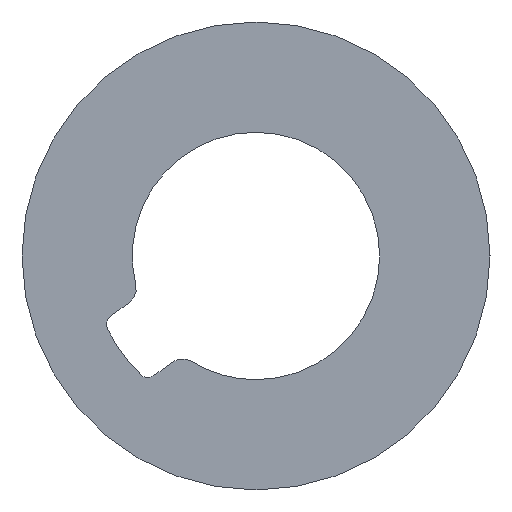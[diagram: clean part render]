
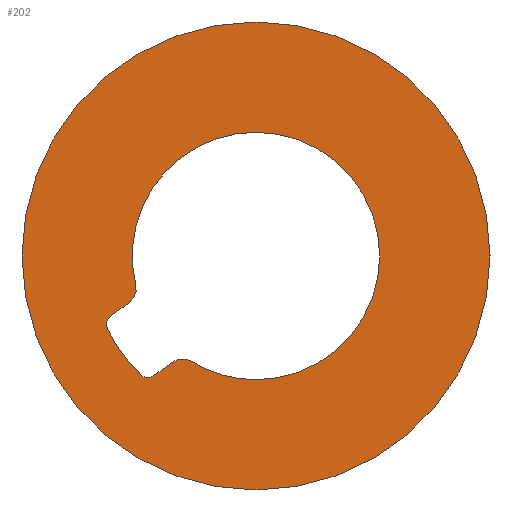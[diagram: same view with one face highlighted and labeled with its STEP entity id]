
A CAD part, left-side view. The second image highlights one B-rep face of the part: STEP entity #202.
In plain terms, the highlighted planar face has unit normal (-1, 0, 0).
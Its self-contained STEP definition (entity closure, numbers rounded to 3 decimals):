
#5 = ORIENTED_EDGE ( 'NONE', *, *, #264, .T. ) ;
#6 = ORIENTED_EDGE ( 'NONE', *, *, #265, .T. ) ;
#7 = ORIENTED_EDGE ( 'NONE', *, *, #267, .T. ) ;
#27 = VECTOR ( 'NONE', #352, 1000. ) ;
#28 = CIRCLE ( 'NONE', #222, 7. ) ;
#30 = LINE ( 'NONE', #354, #27 ) ;
#42 = CIRCLE ( 'NONE', #229, 3.7 ) ;
#48 = CIRCLE ( 'NONE', #231, 3.7 ) ;
#54 = CIRCLE ( 'NONE', #233, 3.7 ) ;
#63 = CIRCLE ( 'NONE', #235, 7. ) ;
#88 = CIRCLE ( 'NONE', #238, 0.3 ) ;
#92 = CIRCLE ( 'NONE', #239, 0.3 ) ;
#94 = CIRCLE ( 'NONE', #240, 4.95 ) ;
#96 = CIRCLE ( 'NONE', #241, 0.3 ) ;
#98 = VECTOR ( 'NONE', #397, 1000. ) ;
#99 = CIRCLE ( 'NONE', #242, 0.5 ) ;
#100 = LINE ( 'NONE', #398, #98 ) ;
#101 = CIRCLE ( 'NONE', #243, 0.5 ) ;
#105 = ORIENTED_EDGE ( 'NONE', *, *, #260, .T. ) ;
#106 = ORIENTED_EDGE ( 'NONE', *, *, #461, .T. ) ;
#107 = ORIENTED_EDGE ( 'NONE', *, *, #277, .F. ) ;
#108 = ORIENTED_EDGE ( 'NONE', *, *, #288, .T. ) ;
#109 = ORIENTED_EDGE ( 'NONE', *, *, #281, .T. ) ;
#110 = ORIENTED_EDGE ( 'NONE', *, *, #284, .T. ) ;
#111 = ORIENTED_EDGE ( 'NONE', *, *, #261, .T. ) ;
#112 = ORIENTED_EDGE ( 'NONE', *, *, #263, .T. ) ;
#113 = ORIENTED_EDGE ( 'NONE', *, *, #262, .T. ) ;
#132 = FACE_BOUND ( 'NONE', #160, .T. ) ;
#133 = FACE_OUTER_BOUND ( 'NONE', #158, .T. ) ;
#158 = EDGE_LOOP ( 'NONE', ( #194, #107 ) ) ;
#160 = EDGE_LOOP ( 'NONE', ( #106, #105, #110, #109, #108, #111, #113, #112, #7, #5, #6 ) ) ;
#194 = ORIENTED_EDGE ( 'NONE', *, *, #460, .F. ) ;
#202 = ADVANCED_FACE ( 'NONE', ( #133, #132 ), #470, .F. ) ;
#222 = AXIS2_PLACEMENT_3D ( 'NONE', #357, #356, #355 ) ;
#229 = AXIS2_PLACEMENT_3D ( 'NONE', #387, #386, #385 ) ;
#231 = AXIS2_PLACEMENT_3D ( 'NONE', #405, #404, #401 ) ;
#233 = AXIS2_PLACEMENT_3D ( 'NONE', #419, #417, #416 ) ;
#235 = AXIS2_PLACEMENT_3D ( 'NONE', #439, #436, #435 ) ;
#238 = AXIS2_PLACEMENT_3D ( 'NONE', #342, #338, #334 ) ;
#239 = AXIS2_PLACEMENT_3D ( 'NONE', #366, #362, #358 ) ;
#240 = AXIS2_PLACEMENT_3D ( 'NONE', #388, #379, #374 ) ;
#241 = AXIS2_PLACEMENT_3D ( 'NONE', #394, #393, #390 ) ;
#242 = AXIS2_PLACEMENT_3D ( 'NONE', #406, #403, #402 ) ;
#243 = AXIS2_PLACEMENT_3D ( 'NONE', #420, #415, #411 ) ;
#253 = AXIS2_PLACEMENT_3D ( 'NONE', #469, #468, #465 ) ;
#260 = EDGE_CURVE ( 'NONE', #523, #502, #101, .T. ) ;
#261 = EDGE_CURVE ( 'NONE', #513, #515, #99, .T. ) ;
#262 = EDGE_CURVE ( 'NONE', #515, #510, #100, .T. ) ;
#263 = EDGE_CURVE ( 'NONE', #510, #500, #96, .T. ) ;
#264 = EDGE_CURVE ( 'NONE', #519, #517, #94, .T. ) ;
#265 = EDGE_CURVE ( 'NONE', #517, #508, #92, .T. ) ;
#267 = EDGE_CURVE ( 'NONE', #500, #519, #88, .T. ) ;
#277 = EDGE_CURVE ( 'NONE', #512, #514, #63, .T. ) ;
#281 = EDGE_CURVE ( 'NONE', #501, #507, #54, .T. ) ;
#284 = EDGE_CURVE ( 'NONE', #502, #501, #48, .T. ) ;
#288 = EDGE_CURVE ( 'NONE', #507, #513, #42, .T. ) ;
#322 = CARTESIAN_POINT ( 'NONE',  ( -535.5, 3.788, -1.393 ) ) ;
#327 = CARTESIAN_POINT ( 'NONE',  ( -535.5, 3.444, -3.555 ) ) ;
#330 = CARTESIAN_POINT ( 'NONE',  ( -535.5, 4.445, -2.177 ) ) ;
#332 = CARTESIAN_POINT ( 'NONE',  ( -535.5, 2.495, -3.172 ) ) ;
#333 = CARTESIAN_POINT ( 'NONE',  ( -535.5, 0., 7. ) ) ;
#334 = DIRECTION ( 'NONE',  ( 0., 0., 1. ) ) ;
#335 = CARTESIAN_POINT ( 'NONE',  ( -535.5, 1.939, -3.151 ) ) ;
#336 = CARTESIAN_POINT ( 'NONE',  ( -535.5, 0., -7. ) ) ;
#338 = DIRECTION ( 'NONE',  ( 1., 0., 0. ) ) ;
#339 = CARTESIAN_POINT ( 'NONE',  ( -535.5, 3.059, -3.582 ) ) ;
#341 = CARTESIAN_POINT ( 'NONE',  ( -535.5, 4.352, -1.803 ) ) ;
#342 = CARTESIAN_POINT ( 'NONE',  ( -535.5, 3.236, -3.34 ) ) ;
#343 = CARTESIAN_POINT ( 'NONE',  ( -535.5, 0., -3.7 ) ) ;
#348 = CARTESIAN_POINT ( 'NONE',  ( -535.5, 3.596, -0.87 ) ) ;
#350 = CARTESIAN_POINT ( 'NONE',  ( -535.5, 0., 3.7 ) ) ;
#351 = CARTESIAN_POINT ( 'NONE',  ( -535.5, 3.236, -3.64 ) ) ;
#352 = DIRECTION ( 'NONE',  ( 0., -0.809, 0.588 ) ) ;
#354 = CARTESIAN_POINT ( 'NONE',  ( -535.5, 3.788, -1.393 ) ) ;
#355 = DIRECTION ( 'NONE',  ( 0., 0., -1. ) ) ;
#356 = DIRECTION ( 'NONE',  ( 1., 0., 0. ) ) ;
#357 = CARTESIAN_POINT ( 'NONE',  ( -535.5, 0., 0. ) ) ;
#358 = DIRECTION ( 'NONE',  ( 0., 0., -1. ) ) ;
#362 = DIRECTION ( 'NONE',  ( 1., 0., 0. ) ) ;
#366 = CARTESIAN_POINT ( 'NONE',  ( -535.5, 4.176, -2.045 ) ) ;
#374 = DIRECTION ( 'NONE',  ( 0., 0., 1. ) ) ;
#379 = DIRECTION ( 'NONE',  ( 1., 0., 0. ) ) ;
#385 = DIRECTION ( 'NONE',  ( 0., 0., -1. ) ) ;
#386 = DIRECTION ( 'NONE',  ( 1., 0., 0. ) ) ;
#387 = CARTESIAN_POINT ( 'NONE',  ( -535.5, 0., 0. ) ) ;
#388 = CARTESIAN_POINT ( 'NONE',  ( -535.5, 0., 0. ) ) ;
#390 = DIRECTION ( 'NONE',  ( 0., 0., 1. ) ) ;
#393 = DIRECTION ( 'NONE',  ( 1., 0., 0. ) ) ;
#394 = CARTESIAN_POINT ( 'NONE',  ( -535.5, 3.236, -3.34 ) ) ;
#397 = DIRECTION ( 'NONE',  ( 0., 0.809, -0.588 ) ) ;
#398 = CARTESIAN_POINT ( 'NONE',  ( -535.5, 3.059, -3.582 ) ) ;
#401 = DIRECTION ( 'NONE',  ( 0., 0., -1. ) ) ;
#402 = DIRECTION ( 'NONE',  ( 0., 0., -1. ) ) ;
#403 = DIRECTION ( 'NONE',  ( -1., 0., 0. ) ) ;
#404 = DIRECTION ( 'NONE',  ( 1., 0., 0. ) ) ;
#405 = CARTESIAN_POINT ( 'NONE',  ( -535.5, 0., 0. ) ) ;
#406 = CARTESIAN_POINT ( 'NONE',  ( -535.5, 2.201, -3.577 ) ) ;
#411 = DIRECTION ( 'NONE',  ( 0., 0., 1. ) ) ;
#415 = DIRECTION ( 'NONE',  ( -1., 0., 0. ) ) ;
#416 = DIRECTION ( 'NONE',  ( 0., 0., -1. ) ) ;
#417 = DIRECTION ( 'NONE',  ( 1., 0., 0. ) ) ;
#419 = CARTESIAN_POINT ( 'NONE',  ( -535.5, 0., 0. ) ) ;
#420 = CARTESIAN_POINT ( 'NONE',  ( -535.5, 4.082, -0.988 ) ) ;
#435 = DIRECTION ( 'NONE',  ( 0., 0., -1. ) ) ;
#436 = DIRECTION ( 'NONE',  ( 1., 0., 0. ) ) ;
#439 = CARTESIAN_POINT ( 'NONE',  ( -535.5, 0., 0. ) ) ;
#460 = EDGE_CURVE ( 'NONE', #514, #512, #28, .T. ) ;
#461 = EDGE_CURVE ( 'NONE', #508, #523, #30, .T. ) ;
#465 = DIRECTION ( 'NONE',  ( 0., 0., -1. ) ) ;
#468 = DIRECTION ( 'NONE',  ( 1., 0., 0. ) ) ;
#469 = CARTESIAN_POINT ( 'NONE',  ( -535.5, 0., 0. ) ) ;
#470 = PLANE ( 'NONE',  #253 ) ;
#500 = VERTEX_POINT ( 'NONE', #351 ) ;
#501 = VERTEX_POINT ( 'NONE', #350 ) ;
#502 = VERTEX_POINT ( 'NONE', #348 ) ;
#507 = VERTEX_POINT ( 'NONE', #343 ) ;
#508 = VERTEX_POINT ( 'NONE', #341 ) ;
#510 = VERTEX_POINT ( 'NONE', #339 ) ;
#512 = VERTEX_POINT ( 'NONE', #336 ) ;
#513 = VERTEX_POINT ( 'NONE', #335 ) ;
#514 = VERTEX_POINT ( 'NONE', #333 ) ;
#515 = VERTEX_POINT ( 'NONE', #332 ) ;
#517 = VERTEX_POINT ( 'NONE', #330 ) ;
#519 = VERTEX_POINT ( 'NONE', #327 ) ;
#523 = VERTEX_POINT ( 'NONE', #322 ) ;
